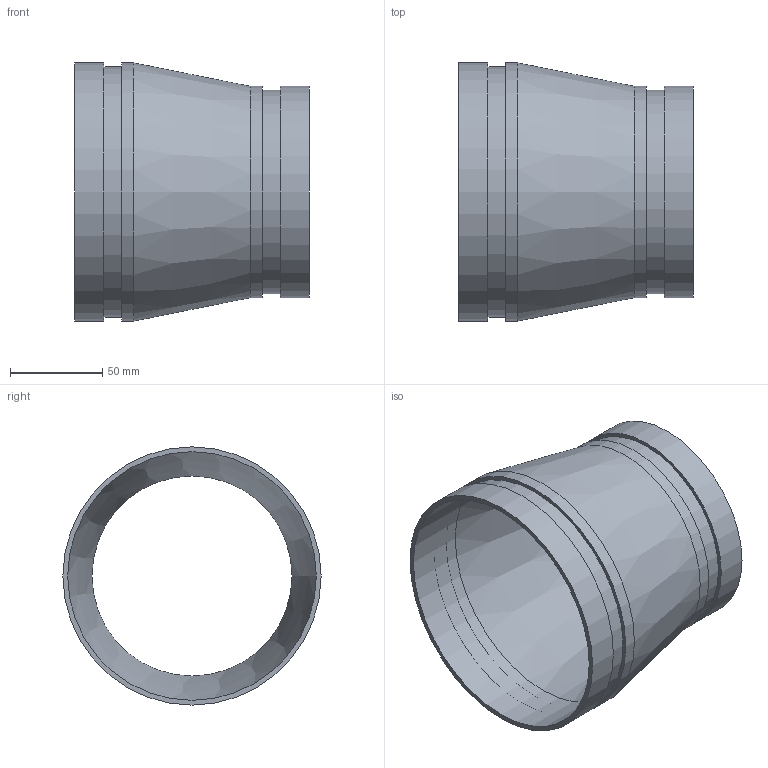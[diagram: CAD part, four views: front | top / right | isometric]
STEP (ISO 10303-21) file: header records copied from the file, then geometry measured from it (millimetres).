
FILE_DESCRIPTION(/* description */ ('VIC REDUCER CONCENTRIC No 450-SS','CAx-IF Rec.Pracs.---Representation and Presentation of Product Manufacturing Information (PMI)---4.0---2014-10-13'),/* implementation_level */ '2;1');
FILE_NAME(/* name */ 'C:\Users\kkamble\AppData\Roaming\Autodesk\ApplicationPlugins\Back Up\Victaulic_SS-OGS_Reducer Concentric_Sched 10S_No 450 SS (OGS)\Victaulic_SS-OGS_Reducer Concentric_Sched 10S_No 450 SS (OGS)_05.0 (139.7)x04.0 (125x100).stp',/* time_stamp */ '2020-09-08T12:33:19+05:00',/* author */ ('CORINNE GRAY'),/* organization */ ('Victaulic'),/* preprocessor_version */ 'ST-DEVELOPER v17.2',/* originating_system */ 'Autodesk Inventor 2019',/* authorisation */ '');
FILE_SCHEMA (('AP242_MANAGED_MODEL_BASED_3D_ENGINEERING_MIM_LF { 1 0 10303 442 1 1 4 }'));
Length unit declared in the file: inch
Products named in the file (1): 450 SS-05.0 (139.7)x04.0
Bounding box: 127 x 139.7 x 139.7 mm (x, y, z)
Volume: 123472.5 mm3; surface area: 105352.6 mm2
Topology: 1 solids, 1 shells, 16 faces, 42 edges, 32 vertices
Faces by surface type: cylinder 8, plane 6, cone 2
Full cylindrical faces by diameter (mm): 108.204 x1, 110.084 x1, 114.3 x2, 134.493 x1, 135.484 x1, 139.7 x2
Entity records: 686 total; most frequent: DIRECTION 134, CARTESIAN_POINT 108, ORIENTED_EDGE 84, AXIS2_PLACEMENT_3D 62, EDGE_CURVE 42, CIRCLE 32, VERTEX_POINT 32, EDGE_LOOP 22
